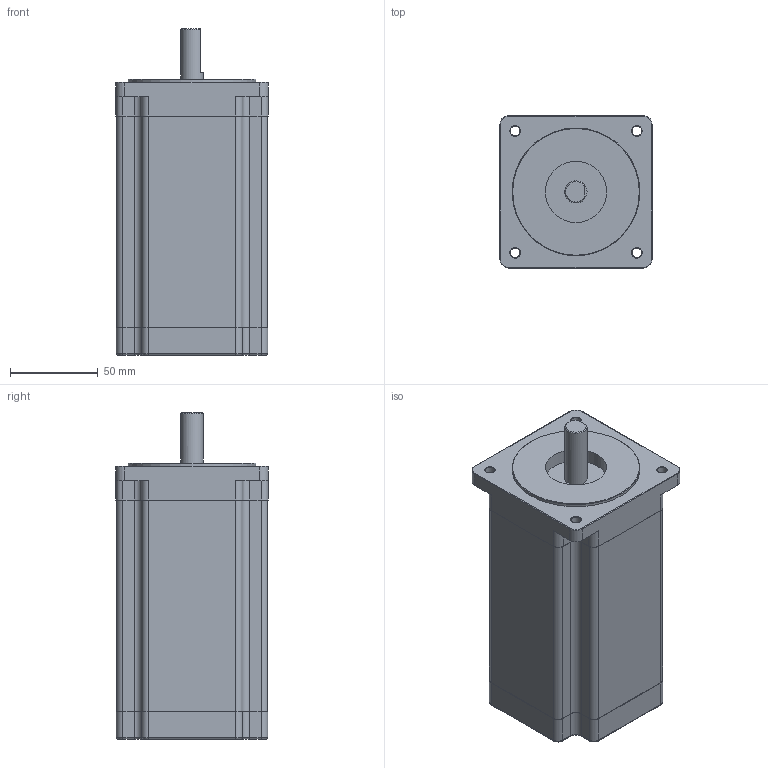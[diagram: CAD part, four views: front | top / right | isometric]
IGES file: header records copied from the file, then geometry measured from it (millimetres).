
Global section: file name: No Iges File Name specified; native system: Autodesk Inventor 2012; preprocessor: AutoDesk Inventor Iges Exporter R2012; author: Sergio Martins; date: 20121015.162218; units: millimetre
Bounding box: 87 x 87 x 186.55 mm (x, y, z)
Volume: 1039674.9 mm3; surface area: 69020.6 mm2
Topology: 1 solids, 1 shells, 419 faces, 1134 edges, 745 vertices
Faces by surface type: plane 264, bspline 70, cylinder 46, revolution 21, torus 16, cone 2
Full cylindrical faces by diameter (mm): 12.7 x1, 73 x1
